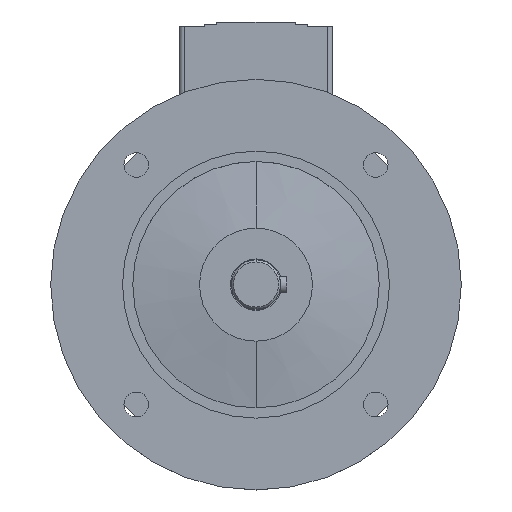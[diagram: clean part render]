
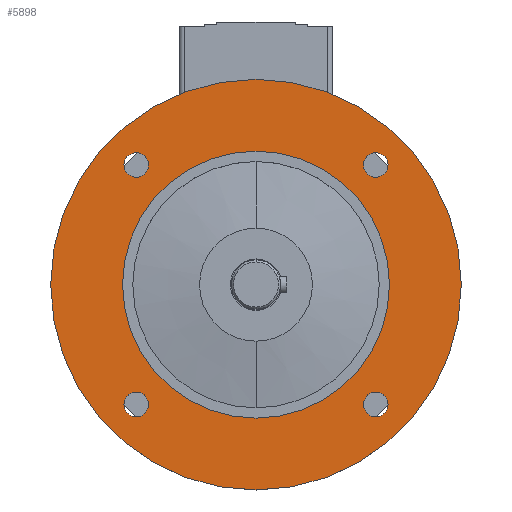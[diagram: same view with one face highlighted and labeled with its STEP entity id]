
A CAD part, top view. The second image highlights one B-rep face of the part: STEP entity #5898.
In plain terms, the highlighted planar face has unit normal (0, 0, 1).
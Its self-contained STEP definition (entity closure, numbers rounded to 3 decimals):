
#1065=CARTESIAN_POINT('',(-58.336,58.336,31.5));
#1066=DIRECTION('',(0.,0.,-1.));
#1067=DIRECTION('',(-1.,0.,0.));
#1068=AXIS2_PLACEMENT_3D('',#1065,#1066,#1067);
#1070=CARTESIAN_POINT('',(-58.336,58.336,31.5));
#1071=DIRECTION('',(0.,0.,-1.));
#1072=DIRECTION('',(1.,0.,0.));
#1073=AXIS2_PLACEMENT_3D('',#1070,#1071,#1072);
#1075=CARTESIAN_POINT('',(-58.336,-58.336,31.5));
#1076=DIRECTION('',(0.,0.,-1.));
#1077=DIRECTION('',(-1.,0.,0.));
#1078=AXIS2_PLACEMENT_3D('',#1075,#1076,#1077);
#1080=CARTESIAN_POINT('',(-58.336,-58.336,31.5));
#1081=DIRECTION('',(0.,0.,-1.));
#1082=DIRECTION('',(1.,0.,0.));
#1083=AXIS2_PLACEMENT_3D('',#1080,#1081,#1082);
#1085=CARTESIAN_POINT('',(58.336,-58.336,31.5));
#1086=DIRECTION('',(0.,0.,-1.));
#1087=DIRECTION('',(-1.,0.,0.));
#1088=AXIS2_PLACEMENT_3D('',#1085,#1086,#1087);
#1090=CARTESIAN_POINT('',(58.336,-58.336,31.5));
#1091=DIRECTION('',(0.,0.,-1.));
#1092=DIRECTION('',(1.,0.,0.));
#1093=AXIS2_PLACEMENT_3D('',#1090,#1091,#1092);
#1095=CARTESIAN_POINT('',(0.,0.,31.5));
#1096=DIRECTION('',(0.,0.,1.));
#1097=DIRECTION('',(0.,1.,0.));
#1098=AXIS2_PLACEMENT_3D('',#1095,#1096,#1097);
#1100=CARTESIAN_POINT('',(0.,0.,31.5));
#1101=DIRECTION('',(0.,0.,-1.));
#1102=DIRECTION('',(0.,1.,0.));
#1103=AXIS2_PLACEMENT_3D('',#1100,#1101,#1102);
#1105=CARTESIAN_POINT('',(58.336,58.336,31.5));
#1106=DIRECTION('',(0.,0.,-1.));
#1107=DIRECTION('',(-1.,0.,0.));
#1108=AXIS2_PLACEMENT_3D('',#1105,#1106,#1107);
#1110=CARTESIAN_POINT('',(58.336,58.336,31.5));
#1111=DIRECTION('',(0.,0.,-1.));
#1112=DIRECTION('',(1.,0.,0.));
#1113=AXIS2_PLACEMENT_3D('',#1110,#1111,#1112);
#1135=CARTESIAN_POINT('',(0.,0.,31.5));
#1136=DIRECTION('',(0.,0.,-1.));
#1137=DIRECTION('',(0.,1.,0.));
#1138=AXIS2_PLACEMENT_3D('',#1135,#1136,#1137);
#1148=CARTESIAN_POINT('',(0.,0.,31.5));
#1149=DIRECTION('',(0.,0.,1.));
#1150=DIRECTION('',(0.,1.,0.));
#1151=AXIS2_PLACEMENT_3D('',#1148,#1149,#1150);
#3397=CARTESIAN_POINT('',(0.,100.,31.5));
#3399=VERTEX_POINT('',#3397);
#3400=CARTESIAN_POINT('',(0.,65.,31.5));
#3402=VERTEX_POINT('',#3400);
#3405=CARTESIAN_POINT('',(0.,-100.,31.5));
#3407=VERTEX_POINT('',#3405);
#3408=CARTESIAN_POINT('',(0.,-65.,31.5));
#3410=VERTEX_POINT('',#3408);
#3416=CARTESIAN_POINT('',(52.336,58.336,31.5));
#3417=CARTESIAN_POINT('',(64.336,58.336,31.5));
#3418=VERTEX_POINT('',#3416);
#3419=VERTEX_POINT('',#3417);
#3424=CARTESIAN_POINT('',(52.336,-58.336,31.5));
#3425=CARTESIAN_POINT('',(64.336,-58.336,31.5));
#3426=VERTEX_POINT('',#3424);
#3427=VERTEX_POINT('',#3425);
#3432=CARTESIAN_POINT('',(-64.336,-58.336,31.5));
#3433=CARTESIAN_POINT('',(-52.336,-58.336,31.5));
#3434=VERTEX_POINT('',#3432);
#3435=VERTEX_POINT('',#3433);
#3440=CARTESIAN_POINT('',(-64.336,58.336,31.5));
#3441=CARTESIAN_POINT('',(-52.336,58.336,31.5));
#3442=VERTEX_POINT('',#3440);
#3443=VERTEX_POINT('',#3441);
#5858=CARTESIAN_POINT('',(0.,0.,31.5));
#5859=DIRECTION('',(0.,0.,-1.));
#5860=DIRECTION('',(0.,-1.,0.));
#5861=AXIS2_PLACEMENT_3D('',#5858,#5859,#5860);
#5862=PLANE('',#5861);
#5864=ORIENTED_EDGE('',*,*,#5863,.F.);
#5866=ORIENTED_EDGE('',*,*,#5865,.T.);
#5867=EDGE_LOOP('',(#5864,#5866));
#5868=FACE_OUTER_BOUND('',#5867,.F.);
#5869=ORIENTED_EDGE('',*,*,#5848,.F.);
#5871=ORIENTED_EDGE('',*,*,#5870,.F.);
#5872=EDGE_LOOP('',(#5869,#5871));
#5873=FACE_BOUND('',#5872,.F.);
#5875=ORIENTED_EDGE('',*,*,#5874,.F.);
#5877=ORIENTED_EDGE('',*,*,#5876,.F.);
#5878=EDGE_LOOP('',(#5875,#5877));
#5879=FACE_BOUND('',#5878,.F.);
#5881=ORIENTED_EDGE('',*,*,#5880,.F.);
#5883=ORIENTED_EDGE('',*,*,#5882,.F.);
#5884=EDGE_LOOP('',(#5881,#5883));
#5885=FACE_BOUND('',#5884,.F.);
#5887=ORIENTED_EDGE('',*,*,#5886,.F.);
#5889=ORIENTED_EDGE('',*,*,#5888,.T.);
#5890=EDGE_LOOP('',(#5887,#5889));
#5891=FACE_BOUND('',#5890,.F.);
#5893=ORIENTED_EDGE('',*,*,#5892,.F.);
#5895=ORIENTED_EDGE('',*,*,#5894,.F.);
#5896=EDGE_LOOP('',(#5893,#5895));
#5897=FACE_BOUND('',#5896,.F.);
#5898=ADVANCED_FACE('',(#5868,#5873,#5879,#5885,#5891,#5897),#5862,.F.);
#1069=CIRCLE('',#1068,6.);
#1074=CIRCLE('',#1073,6.);
#1079=CIRCLE('',#1078,6.);
#1084=CIRCLE('',#1083,6.);
#1089=CIRCLE('',#1088,6.);
#1094=CIRCLE('',#1093,6.);
#1099=CIRCLE('',#1098,100.);
#1104=CIRCLE('',#1103,100.);
#1109=CIRCLE('',#1108,6.);
#1114=CIRCLE('',#1113,6.);
#1139=CIRCLE('',#1138,65.);
#1152=CIRCLE('',#1151,65.);
#5848=EDGE_CURVE('',#3442,#3443,#1069,.T.);
#5863=EDGE_CURVE('',#3399,#3407,#1099,.T.);
#5865=EDGE_CURVE('',#3399,#3407,#1104,.T.);
#5870=EDGE_CURVE('',#3443,#3442,#1074,.T.);
#5874=EDGE_CURVE('',#3434,#3435,#1079,.T.);
#5876=EDGE_CURVE('',#3435,#3434,#1084,.T.);
#5880=EDGE_CURVE('',#3426,#3427,#1089,.T.);
#5882=EDGE_CURVE('',#3427,#3426,#1094,.T.);
#5886=EDGE_CURVE('',#3402,#3410,#1139,.T.);
#5888=EDGE_CURVE('',#3402,#3410,#1152,.T.);
#5892=EDGE_CURVE('',#3418,#3419,#1109,.T.);
#5894=EDGE_CURVE('',#3419,#3418,#1114,.T.);
